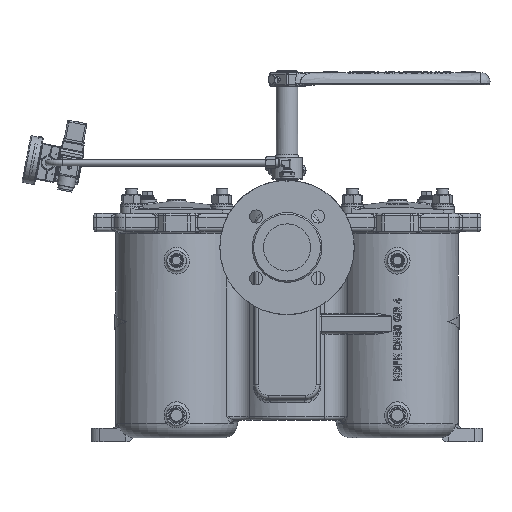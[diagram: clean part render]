
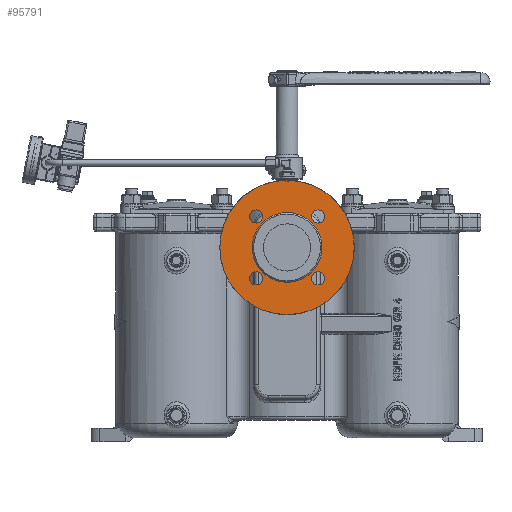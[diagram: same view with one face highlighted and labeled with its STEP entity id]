
A CAD part, top view. The second image highlights one B-rep face of the part: STEP entity #95791.
In plain terms, the highlighted planar face has unit normal (0, 0, 1).
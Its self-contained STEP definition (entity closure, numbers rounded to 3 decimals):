
#19852=PLANE('',#102018);
#22652=FACE_BOUND('',#30577,.T.);
#22653=FACE_BOUND('',#30578,.T.);
#22654=FACE_BOUND('',#30579,.T.);
#22655=FACE_BOUND('',#30580,.T.);
#22656=FACE_BOUND('',#30581,.T.);
#24717=FACE_OUTER_BOUND('',#30576,.T.);
#30576=EDGE_LOOP('',(#66207));
#30577=EDGE_LOOP('',(#66208));
#30578=EDGE_LOOP('',(#66209));
#30579=EDGE_LOOP('',(#66210));
#30580=EDGE_LOOP('',(#66211));
#30581=EDGE_LOOP('',(#66212));
#36813=CIRCLE('',#102005,9.25);
#36814=CIRCLE('',#102008,0.9);
#36815=CIRCLE('',#102010,0.9);
#36816=CIRCLE('',#102012,0.9);
#36817=CIRCLE('',#102014,0.9);
#36819=CIRCLE('',#102019,4.805);
#40470=VERTEX_POINT('',#167298);
#40471=VERTEX_POINT('',#167302);
#40472=VERTEX_POINT('',#167305);
#40473=VERTEX_POINT('',#167308);
#40474=VERTEX_POINT('',#167311);
#40476=VERTEX_POINT('',#167318);
#50301=EDGE_CURVE('',#40470,#40470,#36813,.T.);
#50302=EDGE_CURVE('',#40471,#40471,#36814,.T.);
#50303=EDGE_CURVE('',#40472,#40472,#36815,.T.);
#50304=EDGE_CURVE('',#40473,#40473,#36816,.T.);
#50305=EDGE_CURVE('',#40474,#40474,#36817,.T.);
#50307=EDGE_CURVE('',#40476,#40476,#36819,.T.);
#66207=ORIENTED_EDGE('',*,*,#50301,.F.);
#66208=ORIENTED_EDGE('',*,*,#50303,.T.);
#66209=ORIENTED_EDGE('',*,*,#50305,.T.);
#66210=ORIENTED_EDGE('',*,*,#50304,.T.);
#66211=ORIENTED_EDGE('',*,*,#50302,.T.);
#66212=ORIENTED_EDGE('',*,*,#50307,.F.);
#95791=ADVANCED_FACE('',(#24717,#22652,#22653,#22654,#22655,#22656),#19852,
 .T.);
#102005=AXIS2_PLACEMENT_3D('',#167299,#112434,#112435);
#102008=AXIS2_PLACEMENT_3D('',#167303,#112440,#112441);
#102010=AXIS2_PLACEMENT_3D('',#167306,#112444,#112445);
#102012=AXIS2_PLACEMENT_3D('',#167309,#112448,#112449);
#102014=AXIS2_PLACEMENT_3D('',#167312,#112452,#112453);
#102018=AXIS2_PLACEMENT_3D('',#167317,#112460,#112461);
#102019=AXIS2_PLACEMENT_3D('',#167319,#112462,#112463);
#112434=DIRECTION('center_axis',(0.,0.,
-1.));
#112435=DIRECTION('ref_axis',(0.,1.,0.));
#112440=DIRECTION('center_axis',(0.,0.,
-1.));
#112441=DIRECTION('ref_axis',(1.,0.,0.));
#112444=DIRECTION('center_axis',(0.,0.,
-1.));
#112445=DIRECTION('ref_axis',(1.,0.,0.));
#112448=DIRECTION('center_axis',(0.,0.,
-1.));
#112449=DIRECTION('ref_axis',(1.,0.,0.));
#112452=DIRECTION('center_axis',(0.,0.,
-1.));
#112453=DIRECTION('ref_axis',(1.,0.,0.));
#112460=DIRECTION('center_axis',(0.,0.,
1.));
#112461=DIRECTION('ref_axis',(1.,0.,0.));
#112462=DIRECTION('center_axis',(0.,0.,
1.));
#112463=DIRECTION('ref_axis',(0.,-1.,0.));
#167298=CARTESIAN_POINT('',(-15.2,35.45,18.25));
#167299=CARTESIAN_POINT('Origin',(-15.2,26.2,18.25));
#167302=CARTESIAN_POINT('',(-18.564,21.936,18.25));
#167303=CARTESIAN_POINT('Origin',(-19.464,21.936,18.25));
#167305=CARTESIAN_POINT('',(-18.564,30.464,18.25));
#167306=CARTESIAN_POINT('Origin',(-19.464,30.464,18.25));
#167308=CARTESIAN_POINT('',(-10.036,21.936,18.25));
#167309=CARTESIAN_POINT('Origin',(-10.936,21.936,18.25));
#167311=CARTESIAN_POINT('',(-10.036,30.464,18.25));
#167312=CARTESIAN_POINT('Origin',(-10.936,30.464,18.25));
#167317=CARTESIAN_POINT('Origin',(-15.2,33.127,18.25));
#167318=CARTESIAN_POINT('',(-15.2,31.005,18.25));
#167319=CARTESIAN_POINT('Origin',(-15.2,26.2,18.25));
